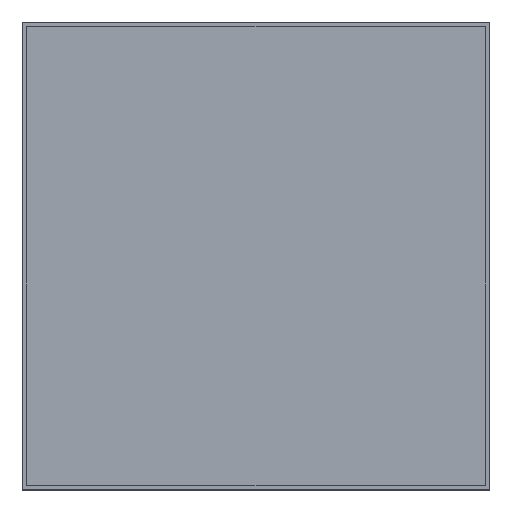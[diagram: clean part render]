
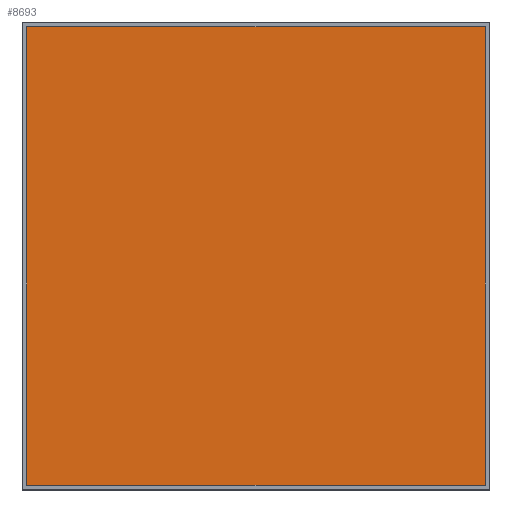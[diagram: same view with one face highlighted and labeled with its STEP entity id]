
A CAD part, top view. The second image highlights one B-rep face of the part: STEP entity #8693.
In plain terms, the highlighted planar face has unit normal (0, 0, 1).
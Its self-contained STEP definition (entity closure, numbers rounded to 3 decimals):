
#4992 = PLANE ( 'NONE',  #6401 ) ;
#5009 = CARTESIAN_POINT ( 'NONE',  ( 193.68, 193.68, -0.36 ) ) ;
#5010 = DIRECTION ( 'NONE',  ( 0., 0., -1. ) ) ;
#5011 = DIRECTION ( 'NONE',  ( -1., 0., 0. ) ) ;
#5234 = VECTOR ( 'NONE', #9314, 1000. ) ;
#5325 = LINE ( 'NONE', #9312, #5533 ) ;
#5531 = LINE ( 'NONE', #9333, #5535 ) ;
#5532 = LINE ( 'NONE', #9347, #5534 ) ;
#5533 = VECTOR ( 'NONE', #9316, 1000. ) ;
#5534 = VECTOR ( 'NONE', #9296, 1000. ) ;
#5535 = VECTOR ( 'NONE', #9292, 1000. ) ;
#5708 = FACE_OUTER_BOUND ( 'NONE', #7995, .T. ) ;
#5713 = LINE ( 'NONE', #9329, #5234 ) ;
#6401 = AXIS2_PLACEMENT_3D ( 'NONE', #5009, #5010, #5011 ) ;
#6552 = CARTESIAN_POINT ( 'NONE',  ( 193.68, 193.68, -0.36 ) ) ;
#6554 = CARTESIAN_POINT ( 'NONE',  ( 193.68, -193.68, -0.36 ) ) ;
#6579 = CARTESIAN_POINT ( 'NONE',  ( -193.68, 193.68, -0.36 ) ) ;
#6604 = CARTESIAN_POINT ( 'NONE',  ( -193.68, -193.68, -0.36 ) ) ;
#7232 = ORIENTED_EDGE ( 'NONE', *, *, #10935, .T. ) ;
#7393 = ORIENTED_EDGE ( 'NONE', *, *, #10941, .T. ) ;
#7408 = ORIENTED_EDGE ( 'NONE', *, *, #10939, .T. ) ;
#7668 = ORIENTED_EDGE ( 'NONE', *, *, #10937, .T. ) ;
#7705 = VERTEX_POINT ( 'NONE', #6579 ) ;
#7830 = VERTEX_POINT ( 'NONE', #6604 ) ;
#7995 = EDGE_LOOP ( 'NONE', ( #7232, #7668, #7408, #7393 ) ) ;
#8242 = VERTEX_POINT ( 'NONE', #6552 ) ;
#8245 = VERTEX_POINT ( 'NONE', #6554 ) ;
#8693 = ADVANCED_FACE ( 'NONE', ( #5708 ), #4992, .F. ) ;
#9292 = DIRECTION ( 'NONE',  ( 0., -1., 0. ) ) ;
#9296 = DIRECTION ( 'NONE',  ( 1., 0., 0. ) ) ;
#9312 = CARTESIAN_POINT ( 'NONE',  ( -193.68, 193.68, -0.36 ) ) ;
#9314 = DIRECTION ( 'NONE',  ( 0., 1., 0. ) ) ;
#9316 = DIRECTION ( 'NONE',  ( -1., 0., 0. ) ) ;
#9329 = CARTESIAN_POINT ( 'NONE',  ( 193.68, -193.68, -0.36 ) ) ;
#9333 = CARTESIAN_POINT ( 'NONE',  ( -193.68, -193.68, -0.36 ) ) ;
#9347 = CARTESIAN_POINT ( 'NONE',  ( -193.68, -193.68, -0.36 ) ) ;
#10935 = EDGE_CURVE ( 'NONE', #8245, #8242, #5713, .T. ) ;
#10937 = EDGE_CURVE ( 'NONE', #8242, #7705, #5325, .T. ) ;
#10939 = EDGE_CURVE ( 'NONE', #7705, #7830, #5531, .T. ) ;
#10941 = EDGE_CURVE ( 'NONE', #7830, #8245, #5532, .T. ) ;
